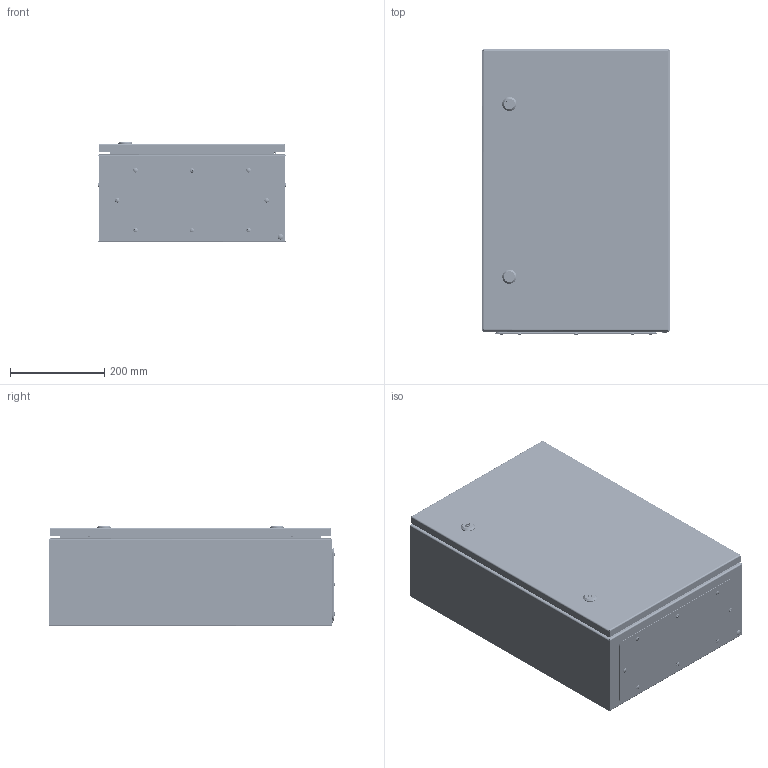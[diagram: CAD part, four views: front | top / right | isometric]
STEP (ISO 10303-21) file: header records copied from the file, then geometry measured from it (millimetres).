
FILE_DESCRIPTION (( 'STEP AP214' ), '1' );
FILE_NAME ('T-CCS 60.40.21.STEP', '2024-08-20T08:46:00', ( '' ), ( '' ), 'SwSTEP 2.0', 'SolidWorks 2019', '' );
FILE_SCHEMA (( 'AUTOMOTIVE_DESIGN' ));
Length unit declared in the file: millimetre
Products named in the file (1): T-CCS 60.40.21
Bounding box: 400 x 606.62 x 214.15 mm (x, y, z)
Volume: 2633180 mm3; surface area: 2758569.2 mm2
Topology: 83 solids, 83 shells, 4032 faces, 10256 edges, 6494 vertices
Faces by surface type: plane 2014, cylinder 1335, cone 352, bspline 168, torus 120, sphere 43
Entity records: 217306 total; most frequent: CARTESIAN_POINT 77250, ORIENTED_EDGE 20394, DIRECTION 19032, EDGE_CURVE 10197, AXIS2_PLACEMENT_3D 6561, VERTEX_POINT 6492, LINE 5910, VECTOR 5910
